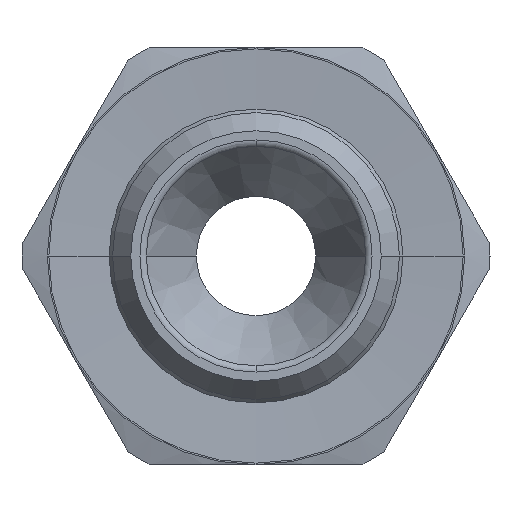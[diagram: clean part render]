
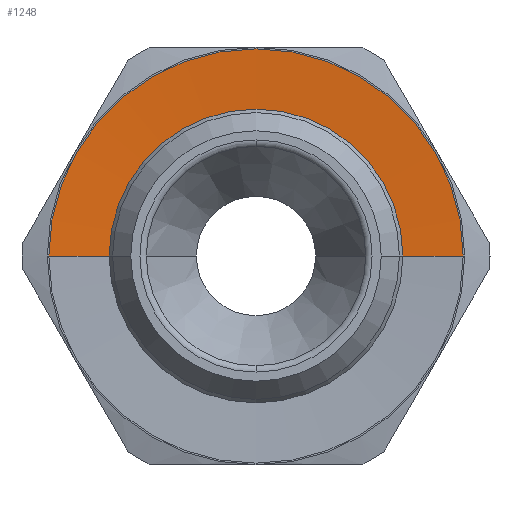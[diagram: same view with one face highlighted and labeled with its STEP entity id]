
A CAD part, left-side view. The second image highlights one B-rep face of the part: STEP entity #1248.
In plain terms, the highlighted conical face has half-angle 87 degrees and reference radius 5.938 mm.
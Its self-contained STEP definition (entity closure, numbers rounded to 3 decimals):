
#1174=CARTESIAN_POINT('',(0.,-6.95,4.));
#1175=VERTEX_POINT('',#1174);
#1184=CARTESIAN_POINT('',(0.,6.95,4.));
#1185=VERTEX_POINT('',#1184);
#1211=CARTESIAN_POINT('',(0.,0.,3.947));
#1212=DIRECTION('',(0.,0.,1.0));
#1213=DIRECTION('',(0.0,-1.0,0.0));
#1214=AXIS2_PLACEMENT_3D('',#1211,#1212,#1213);
#1215=CONICAL_SURFACE('',#1214,5.938,87.);
#1216=CARTESIAN_POINT('',(0.,-4.925,3.894));
#1217=VERTEX_POINT('',#1216);
#1218=CARTESIAN_POINT('',(0.,-6.95,4.));
#1219=DIRECTION('',(0.,0.999,-0.052));
#1220=VECTOR('',#1219,2.028);
#1221=LINE('',#1218,#1220);
#1222=EDGE_CURVE('',#1175,#1217,#1221,.T.);
#1223=ORIENTED_EDGE('',*,*,#1222,.F.);
#1224=CARTESIAN_POINT('',(0.,0.,4.));
#1225=DIRECTION('',(0.0,0.0,-1.0));
#1226=DIRECTION('',(0.0,-1.0,0.0));
#1227=AXIS2_PLACEMENT_3D('',#1224,#1225,#1226);
#1228=CIRCLE('',#1227,6.95);
#1229=EDGE_CURVE('',#1185,#1175,#1228,.T.);
#1230=ORIENTED_EDGE('',*,*,#1229,.F.);
#1231=CARTESIAN_POINT('',(0.,4.925,3.894));
#1232=VERTEX_POINT('',#1231);
#1233=CARTESIAN_POINT('',(0.,4.925,3.894));
#1234=DIRECTION('',(0.,0.999,0.052));
#1235=VECTOR('',#1234,2.028);
#1236=LINE('',#1233,#1235);
#1237=EDGE_CURVE('',#1232,#1185,#1236,.T.);
#1238=ORIENTED_EDGE('',*,*,#1237,.F.);
#1239=CARTESIAN_POINT('',(0.,0.,3.894));
#1240=DIRECTION('',(0.0,0.0,-1.0));
#1241=DIRECTION('',(0.0,-1.0,0.0));
#1242=AXIS2_PLACEMENT_3D('',#1239,#1240,#1241);
#1243=CIRCLE('',#1242,4.925);
#1244=EDGE_CURVE('',#1232,#1217,#1243,.T.);
#1245=ORIENTED_EDGE('',*,*,#1244,.T.);
#1246=EDGE_LOOP('',(#1223,#1230,#1238,#1245));
#1247=FACE_OUTER_BOUND('',#1246,.T.);
#1248=ADVANCED_FACE('',(#1247),#1215,.F.);
